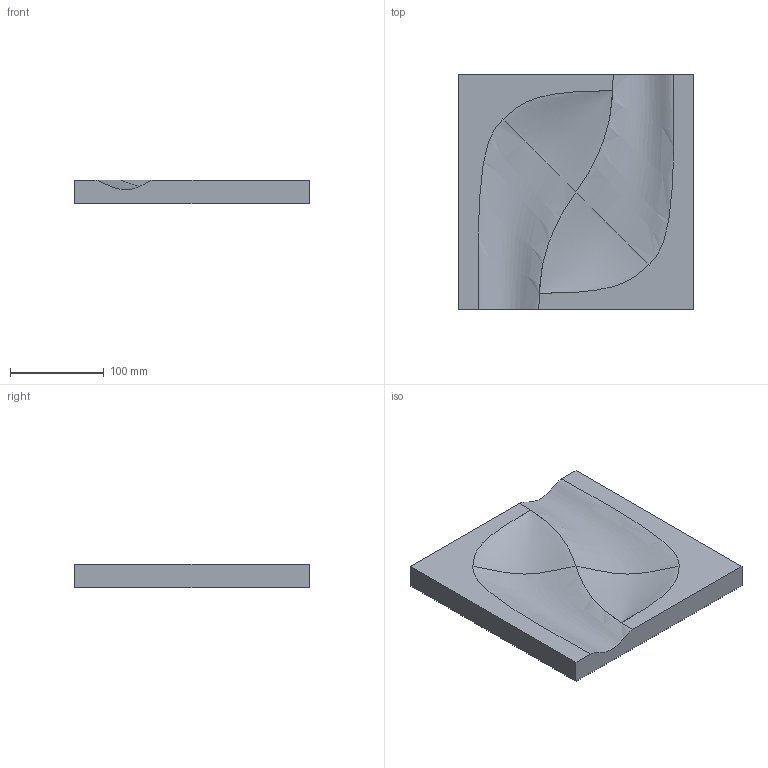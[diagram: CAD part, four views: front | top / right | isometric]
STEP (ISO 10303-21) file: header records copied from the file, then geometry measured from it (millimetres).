
FILE_DESCRIPTION(/* description */ (''),/* implementation_level */ '2;1');
FILE_NAME(/* name */ 'D01_IM~1',/* time_stamp */ '2022-11-14T20:15:31+01:00',/* author */ (''),/* organization */ (''),/* preprocessor_version */ 'ST-DEVELOPER v15',/* originating_system */ '',/* authorisation */ '');
FILE_SCHEMA (('AUTOMOTIVE_DESIGN'));
Length unit declared in the file: millimetre
Products named in the file (1): Document
Bounding box: 250 x 250 x 25 mm (x, y, z)
Volume: 1338829.9 mm3; surface area: 150624 mm2
Topology: 1 solids, 1 shells, 11 faces, 29 edges, 19 vertices
Faces by surface type: plane 7, bspline 4
Entity records: 3857 total; most frequent: CARTESIAN_POINT 3645, ORIENTED_EDGE 52, B_SPLINE_CURVE_WITH_KNOTS 27, EDGE_CURVE 26, VERTEX_POINT 17, DIRECTION 13, ADVANCED_FACE 11, FACE_OUTER_BOUND 11
